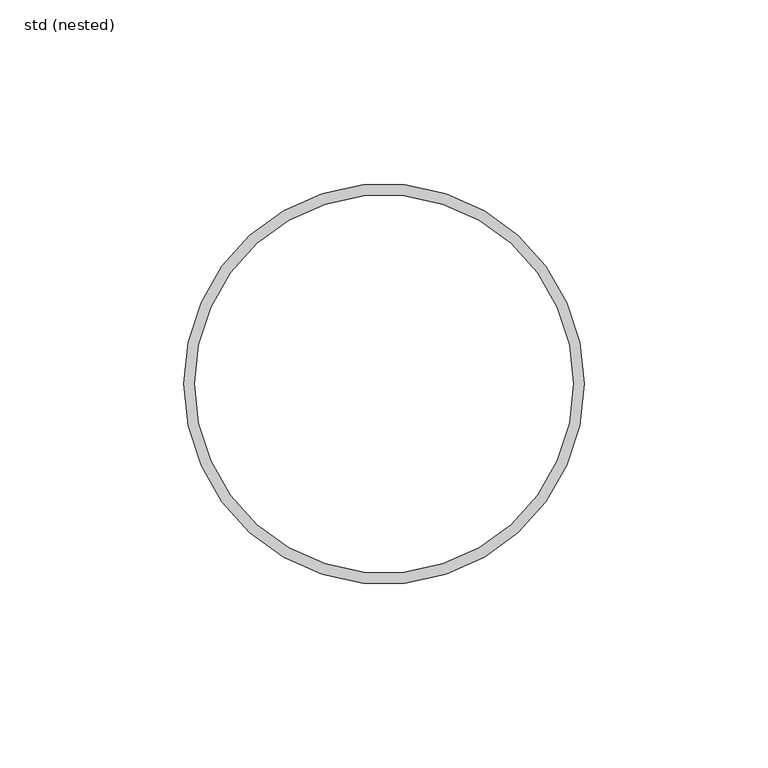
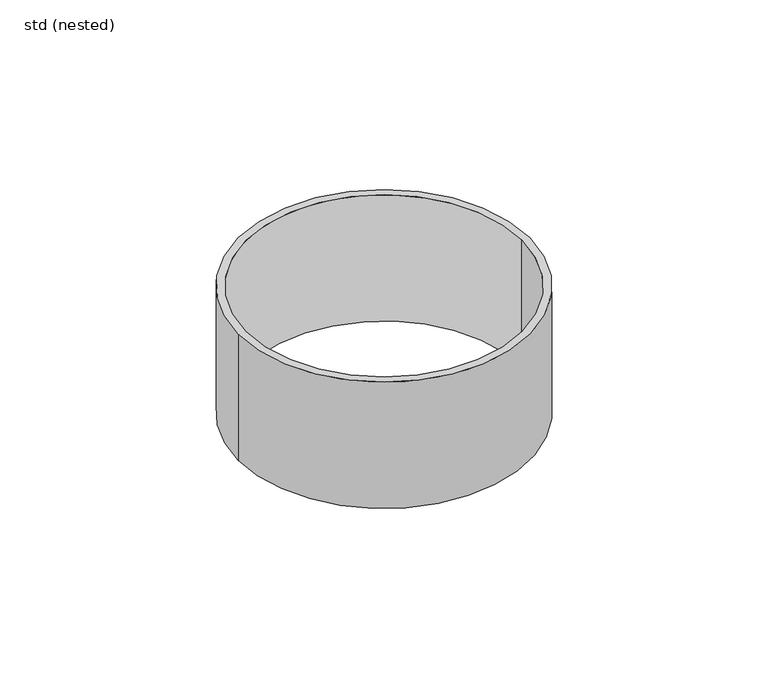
"""IFC4 building model written with IfcOpenShell, lengths in millimetres: pipe fitting geometry, ZZZ_do not use_PIF_ST_WPB_GM-X compound pipe clamp_ACO : std (nested)."""

from ifc_helpers import new_model, si_unit, point, frame, origin, origin_2d, place, context, project, spatial, circle_curve, trimmed, segment, composite_curve, outline, extrude, source, transform, mapped, element, save


def std_nested_f9609c66(model_context):
    return source(origin(), model_context, "Body", "SweptSolid", [
        extrude(outline(composite_curve([segment(trimmed(circle_curve(origin_2d(), 54.5), [point((54.5, 0.0))], [point((-54.5, 0.0))], False, "CARTESIAN"), True, "CONTINUOUS"), segment(trimmed(circle_curve(origin_2d(), 54.5), [point((-54.5, 0.0))], [point((54.5, 0.0))], False, "CARTESIAN"), True, "CONTINUOUS")], self_intersect=False), holes=[composite_curve([segment(trimmed(circle_curve(origin_2d(), 51.5), [point((51.5, 0.0))], [point((-51.5, 0.0))], True, "CARTESIAN"), True, "CONTINUOUS"), segment(trimmed(circle_curve(origin_2d(), 51.5), [point((-51.5, 0.0))], [point((51.5, 0.0))], True, "CARTESIAN"), True, "CONTINUOUS")], self_intersect=False)]), frame((0.0, 0.0, -37.5), z_axis=(0.0, 0.0, 1.0), x_axis=(1.0, 0.0, 0.0)), (0.0, 0.0, 1.0), 50.0),
    ])


if __name__ == "__main__":
    model = new_model("IFC4")
    model_context = context("Model", 3, world=origin())
    ifc_project = project(units=[si_unit("LENGTHUNIT", "METRE", prefix="MILLI")], contexts=[model_context])
    site = spatial("IfcSite", under=ifc_project)
    building = spatial("IfcBuilding", under=site)
    placement = place(None, origin())
    std_nested_shape = std_nested_f9609c66(model_context)
    element("IfcPipeFitting", 1, ObjectType="ZZZ_do not use_PIF_ST_WPB_GM-X compound pipe clamp_ACO : std (nested)", at=placement, inside=building, context=model_context, shape_type="MappedRepresentation", body=[
        mapped(std_nested_shape, transform((0.0, 0.0, 0.0), x_axis=(1.0, 0.0, 0.0), y_axis=(0.0, 1.0, 0.0), z_axis=(0.0, 0.0, 1.0))),
    ])
    save(model, "model.ifc")
